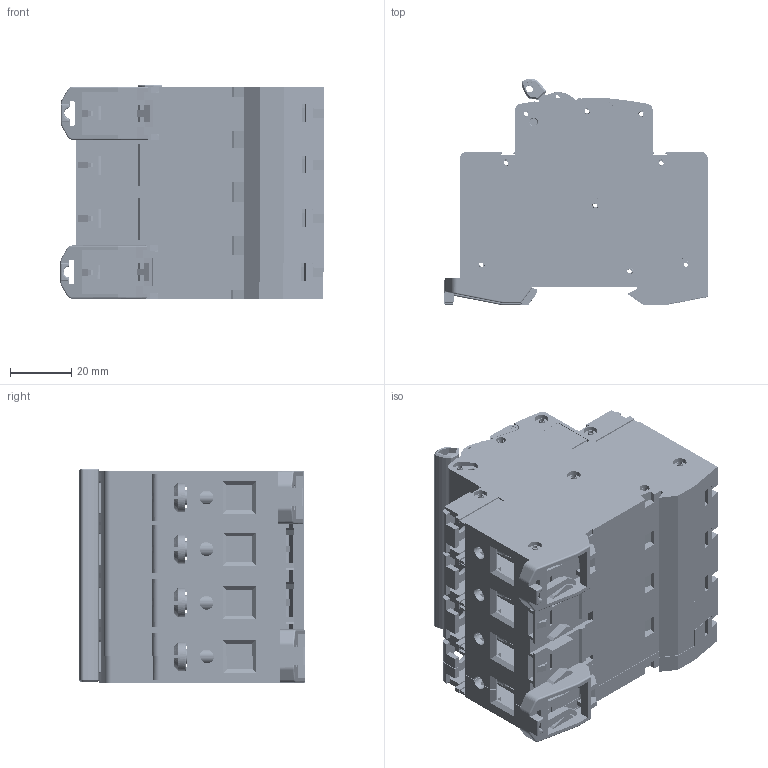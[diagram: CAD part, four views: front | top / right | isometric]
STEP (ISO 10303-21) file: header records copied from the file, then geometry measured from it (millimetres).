
FILE_DESCRIPTION (( 'STEP AP203' ), '1' );
FILE_NAME ('BKN-b 4P三维外形.STEP', '2016-03-18T06:05:49', ( 'User' ), ( 'Company' ), 'SwSTEP 2.0', 'SolidWorks 2013', '' );
FILE_SCHEMA (( 'CONFIG_CONTROL_DESIGN' ));
Length unit declared in the file: millimetre
Products named in the file (16): 8YJ.322.4300; 8YJ.550.4301; BKN-b 三维外形; 8YJ.315.4301; 8YJ.233.4304忒梟蟀裝4P; 8YJ.148.4300; BKN-b  4P三维外形; 8YJ.321.4300; 8YJ.941.4300; 8JV.024.31600; 8YJ.288.4300(菴媼妗瞰); 8JV.315.31600; 8YJ.967.4300(默认); 8JV.253.31600; hexagon socket set screws with cup point gb(GB_SOCKET_SET_TYPE4 M2.5X8-C); 8YJ.900.4300
Assembly tree (50 placements, depth 3):
  BKN-b  4P三维外形
    8JV.024.31600
    8JV.315.31600
    8JV.253.31600
    8YJ.900.4300  x2
    8YJ.550.4301
    8YJ.315.4301
    8YJ.148.4300  x2
    8YJ.321.4300
    8YJ.941.4300
    8YJ.288.4300(菴媼妗瞰)
    8YJ.967.4300(默认)  x9
    hexagon socket set screws with cup point gb(GB_SOCKET_SET_TYPE4 M2.5X8-C)
    8YJ.322.4300  x2
    BKN-b 三维外形  x3
      8JV.024.31600
      8JV.315.31600
      8JV.253.31600
      8YJ.900.4300
      8YJ.550.4301
      8YJ.315.4301
      8YJ.321.4300
      8YJ.941.4300
      8YJ.288.4300(菴媼妗瞰)
      8YJ.967.4300(默认)
      hexagon socket set screws with cup point gb(GB_SOCKET_SET_TYPE4 M2.5X8-C)
      8YJ.322.4300
    8YJ.233.4304忒梟蟀裝4P
Bounding box: 86.2 x 74.04 x 70.34 mm (x, y, z)
Volume: 115711 mm3; surface area: 180954 mm2
Topology: 127 solids, 127 shells, 10987 faces, 29423 edges, 19145 vertices
Faces by surface type: plane 7846, cylinder 1856, bspline 898, cone 387
Entity records: 110013 total; most frequent: CARTESIAN_POINT 40364, ORIENTED_EDGE 14828, DIRECTION 12268, EDGE_CURVE 7414, LINE 5634, VECTOR 5634, VERTEX_POINT 4849, AXIS2_PLACEMENT_3D 3317
